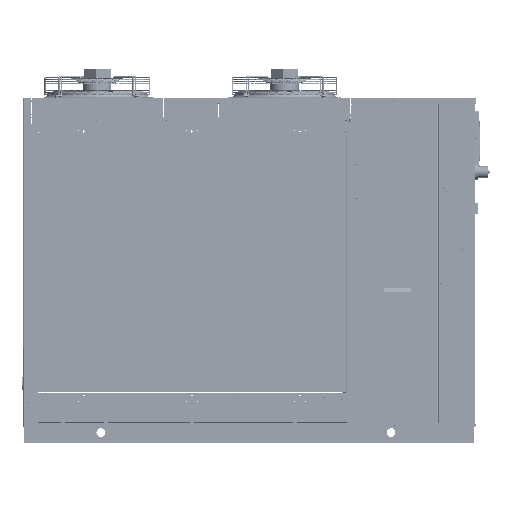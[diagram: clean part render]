
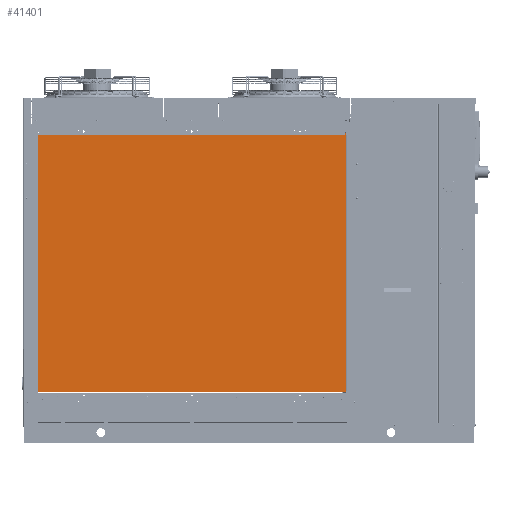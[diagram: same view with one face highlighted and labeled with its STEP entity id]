
A CAD part, left-side view. The second image highlights one B-rep face of the part: STEP entity #41401.
In plain terms, the highlighted planar face has unit normal (-1, 0, 0).
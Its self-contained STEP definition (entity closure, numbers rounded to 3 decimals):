
#4286 = CARTESIAN_POINT ( 'NONE',  ( -12.5, 0., 0. ) ) ;
#7852 = CARTESIAN_POINT ( 'NONE',  ( -12.5, 9.987, -598. ) ) ;
#8179 = AXIS2_PLACEMENT_3D ( 'NONE', #4286, #401173, #223332 ) ;
#19361 = VERTEX_POINT ( 'NONE', #326437 ) ;
#41401 = ADVANCED_FACE ( 'NONE', ( #73955 ), #437761, .F. ) ;
#59604 = CARTESIAN_POINT ( 'NONE',  ( -12.5, 0., 598. ) ) ;
#65605 = VECTOR ( 'NONE', #373921, 1000. ) ;
#71513 = LINE ( 'NONE', #408920, #65605 ) ;
#73955 = FACE_OUTER_BOUND ( 'NONE', #107691, .T. ) ;
#87439 = EDGE_CURVE ( 'NONE', #333742, #406247, #71513, .T. ) ;
#107691 = EDGE_LOOP ( 'NONE', ( #331786, #382672, #465159, #114014 ) ) ;
#114014 = ORIENTED_EDGE ( 'NONE', *, *, #370154, .F. ) ;
#125716 = CARTESIAN_POINT ( 'NONE',  ( -12.5, 1453.013, -598. ) ) ;
#147638 = LINE ( 'NONE', #59604, #272562 ) ;
#172205 = CARTESIAN_POINT ( 'NONE',  ( -12.5, 1453.013, 598. ) ) ;
#190984 = DIRECTION ( 'NONE',  ( 0., 0., 1. ) ) ;
#219935 = VECTOR ( 'NONE', #190984, 1000. ) ;
#223332 = DIRECTION ( 'NONE',  ( 0., 0., -1. ) ) ;
#225455 = LINE ( 'NONE', #233907, #219935 ) ;
#225794 = DIRECTION ( 'NONE',  ( 0., 0., -1. ) ) ;
#233907 = CARTESIAN_POINT ( 'NONE',  ( -12.5, 1453.013, 0. ) ) ;
#250538 = EDGE_CURVE ( 'NONE', #269441, #19361, #147638, .T. ) ;
#269441 = VERTEX_POINT ( 'NONE', #172205 ) ;
#272562 = VECTOR ( 'NONE', #350055, 1000. ) ;
#297722 = VECTOR ( 'NONE', #225794, 1000. ) ;
#326437 = CARTESIAN_POINT ( 'NONE',  ( -12.5, 9.987, 598. ) ) ;
#331786 = ORIENTED_EDGE ( 'NONE', *, *, #250538, .F. ) ;
#333742 = VERTEX_POINT ( 'NONE', #7852 ) ;
#336408 = EDGE_CURVE ( 'NONE', #406247, #269441, #225455, .T. ) ;
#350055 = DIRECTION ( 'NONE',  ( 0., -1., 0. ) ) ;
#370154 = EDGE_CURVE ( 'NONE', #19361, #333742, #463123, .T. ) ;
#373921 = DIRECTION ( 'NONE',  ( 0., 1., 0. ) ) ;
#382672 = ORIENTED_EDGE ( 'NONE', *, *, #336408, .F. ) ;
#401173 = DIRECTION ( 'NONE',  ( 1., 0., 0. ) ) ;
#406247 = VERTEX_POINT ( 'NONE', #125716 ) ;
#408920 = CARTESIAN_POINT ( 'NONE',  ( -12.5, 0., -598. ) ) ;
#437761 = PLANE ( 'NONE',  #8179 ) ;
#446528 = CARTESIAN_POINT ( 'NONE',  ( -12.5, 9.987, -602. ) ) ;
#463123 = LINE ( 'NONE', #446528, #297722 ) ;
#465159 = ORIENTED_EDGE ( 'NONE', *, *, #87439, .F. ) ;
